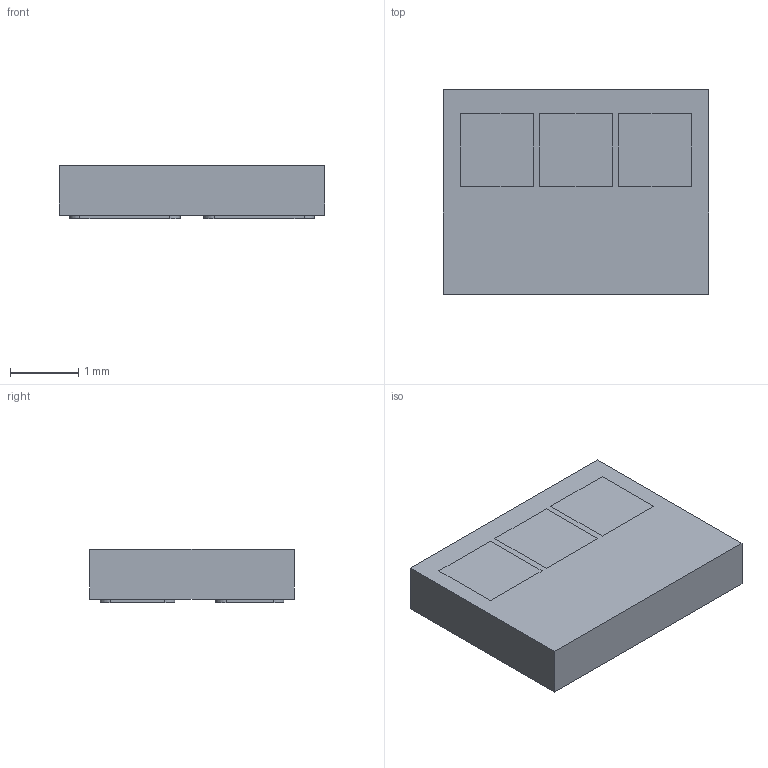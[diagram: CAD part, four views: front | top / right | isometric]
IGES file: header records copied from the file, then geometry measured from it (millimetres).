
Start section: SolidWorks IGES file using analytic representation for surfaces
Global section: file name: C:\Users\user\Desktop\SW22\ヶ蚾陬腑3D恅璃\ASL3.IGS; native system: SolidWorks 2022; preprocessor: SolidWorks 2022; author: user; date: 240125.024332; units: millimetre
Bounding box: 3.89 x 3 x 0.78 mm (x, y, z)
Surface area: 34.4 mm2 (no closed solid volume)
Topology: 0 solids, 0 shells, 48 faces, 348 edges, 348 vertices
Faces by surface type: bspline 33, revolution 15
